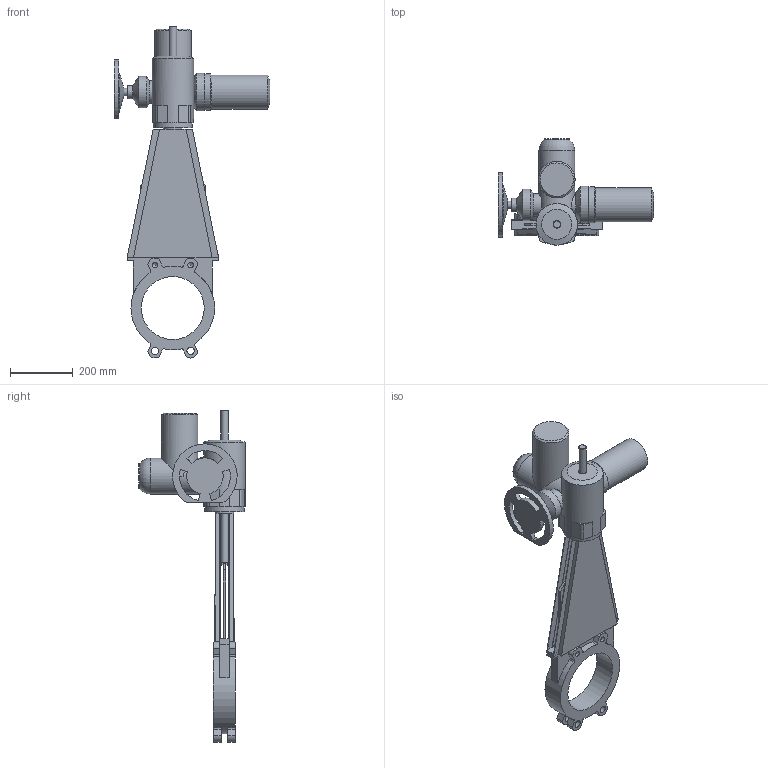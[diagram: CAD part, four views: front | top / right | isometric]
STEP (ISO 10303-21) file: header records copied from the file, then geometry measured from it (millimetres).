
FILE_DESCRIPTION(('STEP AP203'), '1');
FILE_NAME('K21GVA_DN200+MT903.A 10', '', ('UNSPECIFIED'), ('UNSPECIFIED'), 'ASCON STEP Converter 1.6', 'ASCON Math Kernel', '');
FILE_SCHEMA(('CONFIG_CONTROL_DESIGN'));
Length unit declared in the file: millimetre
Bounding box: 494 x 338 x 1054.81 mm (x, y, z)
Volume: 13284116.5 mm3; surface area: 1174861.5 mm2
Topology: 1 solids, 1 shells, 234 faces, 634 edges, 409 vertices
Faces by surface type: plane 138, cylinder 81, cone 14, torus 1
Full cylindrical faces by diameter (mm): 8.5 x4, 12 x4, 17.294 x4, 23 x4, 24 x3, 42 x1, 60 x1, 66 x1, 72 x1, 80 x1, 100 x1, 108 x1, 114 x1, 115 x1, 116 x1, 119 x1, 125 x1, 132 x1, 200 x1
Entity records: 10131 total; most frequent: CARTESIAN_POINT 2363, DIRECTION 1233, ORIENTED_EDGE 1162, EDGE_CURVE 581, AXIS2_PLACEMENT_3D 436, VERTEX_POINT 405, LINE 361, VECTOR 361
